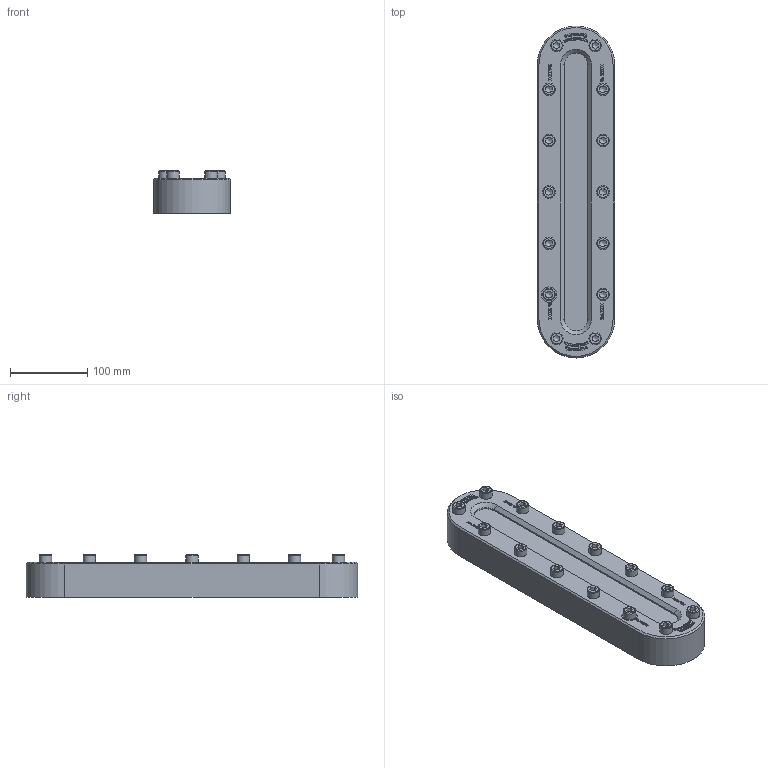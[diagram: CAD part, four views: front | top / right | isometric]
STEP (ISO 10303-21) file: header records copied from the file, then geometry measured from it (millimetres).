
FILE_DESCRIPTION(/* description */ (''),/* implementation_level */ '2;1');
FILE_NAME(/* name */ 'W:\Konstruktion_ACI\336\STEP\ACI-336-430.stp',/* time_stamp */ '2022-03-08T13:33:44+01:00',/* author */ ('Travnicek'),/* organization */ ('ACI Industriearmaturen'),/* preprocessor_version */ 'ST-DEVELOPER v16.1',/* originating_system */ 'Autodesk Inventor 2016',/* authorisation */ '');
FILE_SCHEMA (('AUTOMOTIVE_DESIGN { 1 0 10303 214 3 1 1 }'));
Length unit declared in the file: centimetre
Products named in the file (1): 336-ZB
Bounding box: 100 x 430 x 54.9 mm (x, y, z)
Volume: 1565663.4 mm3; surface area: 151368.6 mm2
Topology: 1 solids, 1 shells, 1386 faces, 3784 edges, 2515 vertices
Faces by surface type: plane 897, bspline 436, cylinder 21, cone 18, torus 14
Full cylindrical faces by diameter (mm): 16 x14, 20 x1
Entity records: 46400 total; most frequent: CARTESIAN_POINT 13425, ORIENTED_EDGE 7428, DIRECTION 4720, EDGE_CURVE 3714, LINE 2698, VECTOR 2698, VERTEX_POINT 2488, EDGE_LOOP 1544
